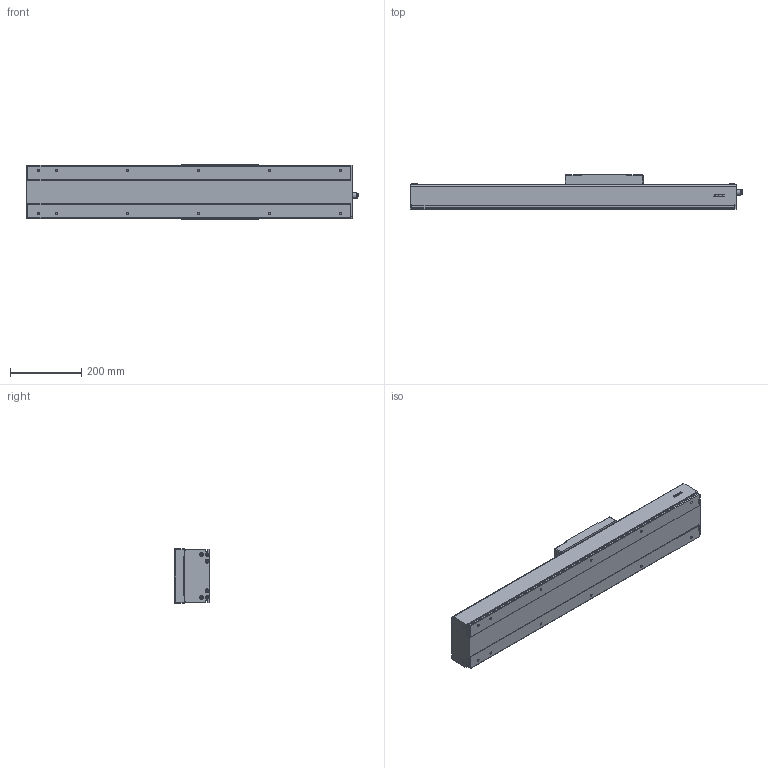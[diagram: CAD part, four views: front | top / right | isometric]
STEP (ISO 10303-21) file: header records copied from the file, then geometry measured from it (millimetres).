
FILE_DESCRIPTION(/* description */ (''),/* implementation_level */ '2;1');
FILE_NAME(/* name */ 'D:\混合母檔20191031\混和母檔\混和母檔\bin\Debug\Download\3D\KS150-20C-400AFI\KS150-20C-400AFI.stp',/* time_stamp */ '2019-11-04T15:57:47+08:00',/* author */ ('user'),/* organization */ (''),/* preprocessor_version */ 'ST-DEVELOPER v16.13',/* originating_system */ 'Autodesk Inventor 2018',/* authorisation */ '');
FILE_SCHEMA (('AUTOMOTIVE_DESIGN { 1 0 10303 214 3 1 1 }'));
Length unit declared in the file: millimetre
Products named in the file (3): KS150-20C-400AFI; KS150-FI; KS150-SL
Assembly tree (2 placements, depth 2):
  KS150-20C-400AFI
    KS150-FI
    KS150-SL
Bounding box: 935.05 x 100 x 152.4 mm (x, y, z)
Volume: 4137875.1 mm3; surface area: 966597.9 mm2
Topology: 4 solids, 8 shells, 1237 faces, 3265 edges, 2118 vertices
Faces by surface type: plane 615, cone 226, cylinder 188, bspline 136, torus 68, sphere 4
Full cylindrical faces by diameter (mm): 3.242 x12, 3.571 x8, 4.134 x4, 4.5 x8, 4.509 x6, 4.917 x4, 5 x18, 5.5 x12, 6 x2, 6.647 x16, 8 x4, 8.4 x8, 9.3 x12, 10.437 x1, 12 x1, 14 x1, 15 x1, 15.538 x1, 23 x1, 46 x1, 50 x1
Entity records: 40888 total; most frequent: CARTESIAN_POINT 12708, ORIENTED_EDGE 5832, DIRECTION 5409, EDGE_CURVE 2916, VERTEX_POINT 2012, AXIS2_PLACEMENT_3D 1872, LINE 1665, VECTOR 1665
